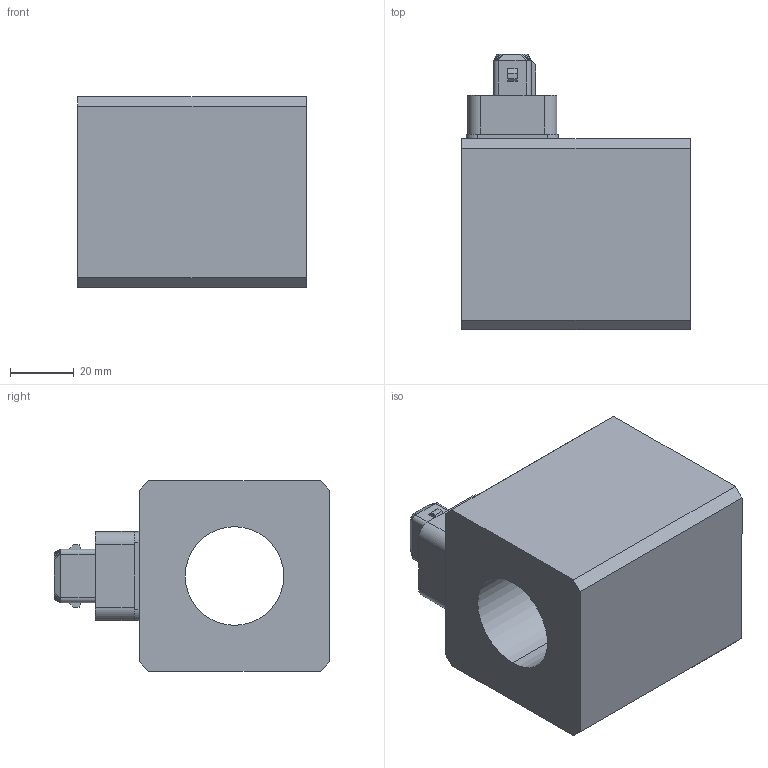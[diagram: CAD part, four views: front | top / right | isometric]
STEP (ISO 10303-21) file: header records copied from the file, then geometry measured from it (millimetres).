
FILE_DESCRIPTION (( 'STEP AP214' ), '1' );
FILE_NAME ('MJS60_31x72.STEP', '2015-07-17T07:45:46', ( '' ), ( '' ), 'SwSTEP 2.0', 'SolidWorks 2014', '' );
FILE_SCHEMA (( 'AUTOMOTIVE_DESIGN' ));
Length unit declared in the file: millimetre
Products named in the file (2): MJS60_31x72
Bounding box: 72 x 86.7 x 60 mm (x, y, z)
Volume: 220886 mm3; surface area: 43545.7 mm2
Topology: 9 solids, 10 shells, 376 faces, 993 edges, 648 vertices
Faces by surface type: plane 270, cylinder 86, cone 14, bspline 4, torus 2
Entity records: 15915 total; most frequent: CARTESIAN_POINT 2228, ORIENTED_EDGE 1982, DIRECTION 1906, EDGE_CURVE 991, LINE 734, VECTOR 734, VERTEX_POINT 648, AXIS2_PLACEMENT_3D 586
